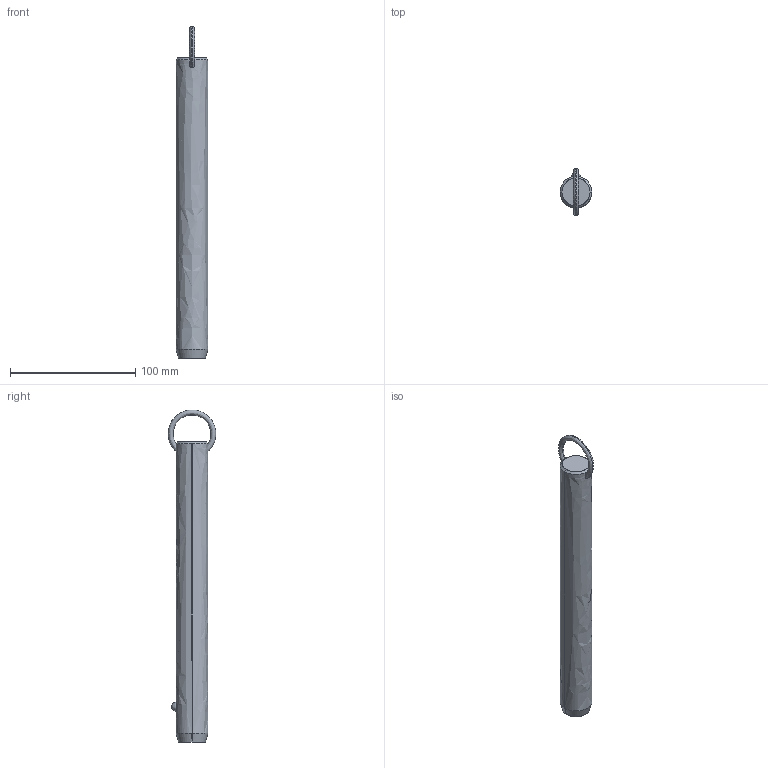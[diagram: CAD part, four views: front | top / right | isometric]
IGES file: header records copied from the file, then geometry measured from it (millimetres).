
Start section: SolidWorks IGES file using analytic representation for surfaces
Global section: file name: C:\Users\liam_\OneDrive\Documents\WORK\Work for WixRoyd\Job Files\J-00019 - Matt Davis CAD Checking\04. CAD Drawings\automotion20190605\P1250.2_v2\P1250.2_v2_20190729_IGES\P1250.100-770.igs; native system: SolidWorks 2017; preprocessor: SolidWorks 2017; author: liam_; date: 190730.175048; units: millimetre
Bounding box: 25.4 x 38.09 x 265.4 mm (x, y, z)
Surface area: 20924.5 mm2 (no closed solid volume)
Topology: 0 solids, 0 shells, 12 faces, 298 edges, 296 vertices
Faces by surface type: revolution 8, bspline 4
